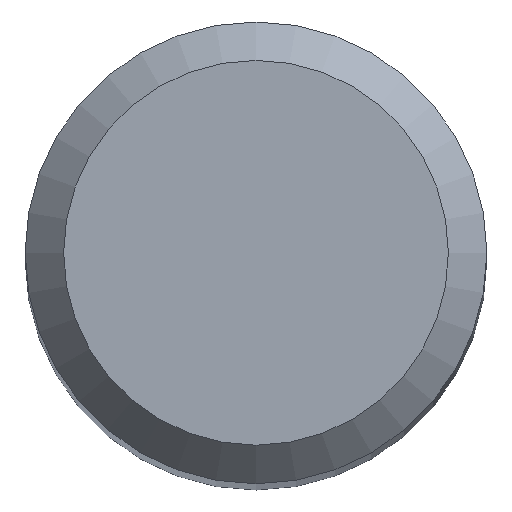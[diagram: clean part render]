
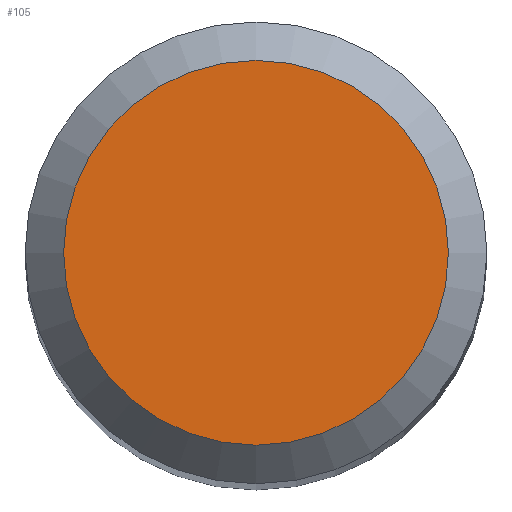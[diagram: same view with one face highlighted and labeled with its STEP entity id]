
A CAD part, top view. The second image highlights one B-rep face of the part: STEP entity #105.
In plain terms, the highlighted planar face has unit normal (0, 0, 1).
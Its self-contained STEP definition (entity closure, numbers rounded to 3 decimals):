
#105=ADVANCED_FACE('',(#112),#110,.T.);
#110=PLANE('',#144);
#112=FACE_OUTER_BOUND('',#114,.T.);
#114=EDGE_LOOP('',(#122));
#122=ORIENTED_EDGE('',*,*,#134,.T.);
#130=VERTEX_POINT('',#174);
#134=EDGE_CURVE('',#130,#130,#138,.T.);
#138=CIRCLE('',#143,5.);
#143=AXIS2_PLACEMENT_3D('',#173,#154,#155);
#144=AXIS2_PLACEMENT_3D('',#175,#156,#157);
#154=DIRECTION('',(0.,0.,1.));
#155=DIRECTION('',(1.,0.,0.));
#156=DIRECTION('',(0.,0.,1.));
#157=DIRECTION('',(1.,0.,0.));
#173=CARTESIAN_POINT('',(0.,0.,95.));
#174=CARTESIAN_POINT('',(5.,0.,95.));
#175=CARTESIAN_POINT('',(0.,0.,95.));
